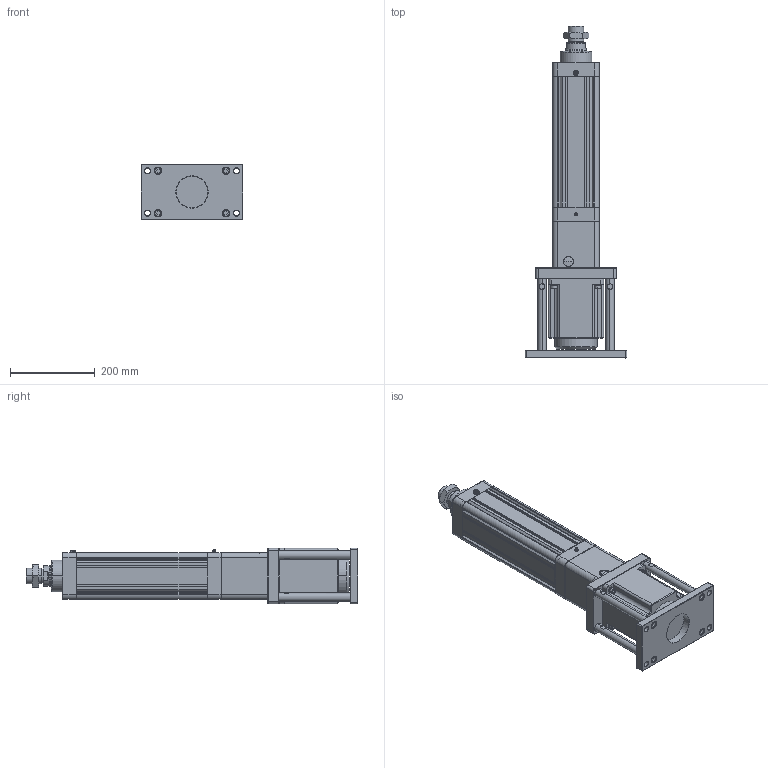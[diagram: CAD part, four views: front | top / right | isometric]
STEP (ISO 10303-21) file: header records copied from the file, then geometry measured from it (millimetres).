
FILE_DESCRIPTION((''),'2;1');
FILE_NAME('HE100-D-P_ASM','2020-04-21T',('ASUS20200'),(''),'CREO PARAMETRIC BY PTC INC, 2014190','CREO PARAMETRIC BY PTC INC, 2014190','');
FILE_SCHEMA(('CONFIG_CONTROL_DESIGN'));
Length unit declared in the file: millimetre
Products named in the file (23): HE100-D-P-001-X1; HE100-D-P-002-X1; HE100-D-P-003-X1; 30305J; JDB506030; SLM-01; YZ-M6X1; HE100-100-D-P-X1_ASM; HE100-D-009-X1; HE100-D-010-X1-130N; M8X20; 130ST-M10010; TD-8; M8X40; SKT-20; HE100-D-P-005-X1; HE100-D-P-004-X1; HE80-D-P-008-X1; LGLM-M10-25; HE100-FB-LG; F-HE100FB; M10X30; HE100-D-P_ASM
Assembly tree (46 placements, depth 3):
  HE100-D-P_ASM
    HE100-100-D-P-X1_ASM
      HE100-D-P-001-X1
      HE100-D-P-002-X1
      HE100-D-P-003-X1
      30305J  x2
      JDB506030
      SLM-01
      YZ-M6X1
    HE100-D-009-X1
    HE100-D-010-X1-130N
    M8X20  x4
    130ST-M10010
    TD-8  x4
    M8X40  x4
    SKT-20  x2
    HE100-D-P-005-X1
    HE100-D-P-004-X1
    HE80-D-P-008-X1
    LGLM-M10-25  x4
    HE100-FB-LG  x4
    F-HE100FB
    M10X30  x8
Bounding box: 240 x 782 x 130 mm (x, y, z)
Volume: 6423195.2 mm3; surface area: 1103600.1 mm2
Topology: 45 solids, 76 shells, 2478 faces, 5708 edges, 3410 vertices
Faces by surface type: plane 878, cone 768, cylinder 684, torus 114, sphere 30, bspline 4
Entity records: 55300 total; most frequent: CARTESIAN_POINT 10413, DIRECTION 9923, ORIENTED_EDGE 8694, EDGE_CURVE 4394, AXIS2_PLACEMENT_3D 3798, VERTEX_POINT 2624, VECTOR 2327, LINE 2327
